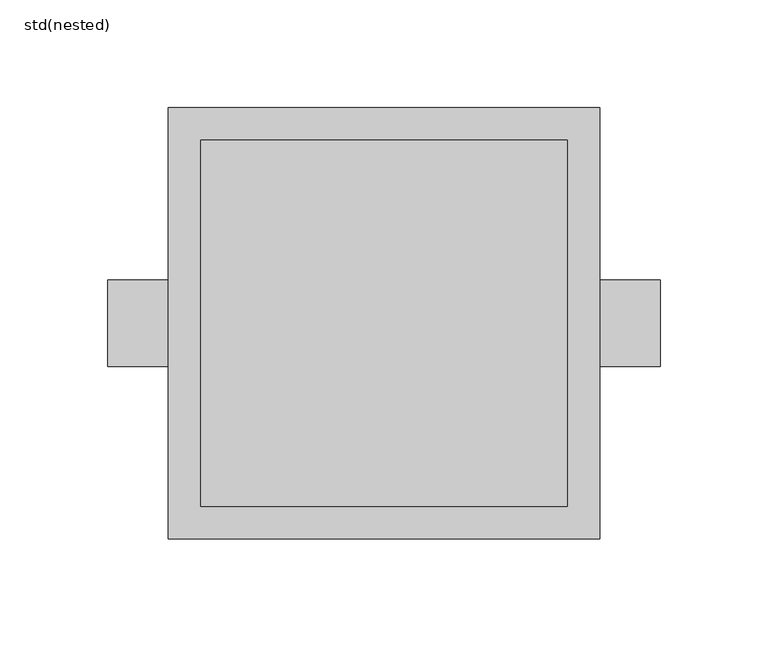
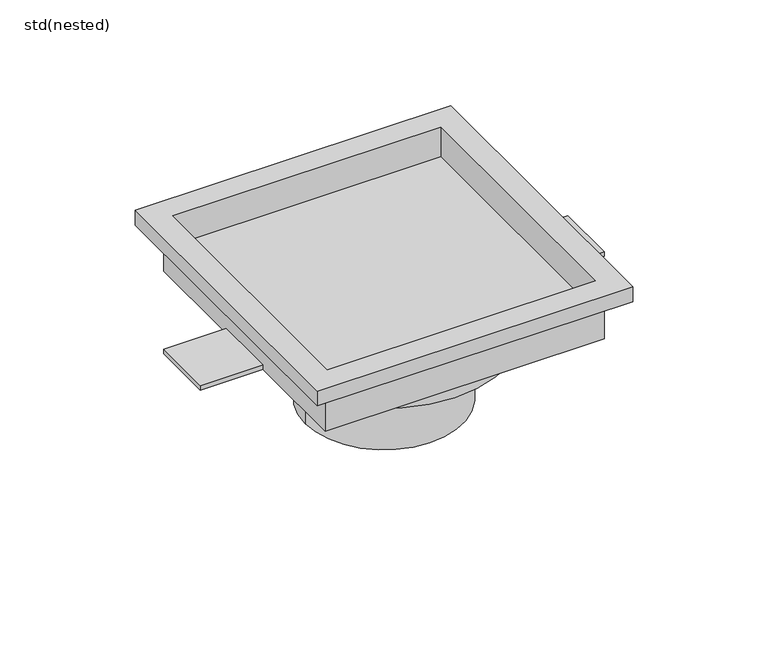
"""IFC4 building model written with IfcOpenShell, lengths in millimetres: sanitary terminal geometry, ZZZ_do not use_PF_ST_Finor stainless steel_square_ACO : std(nested)."""

from ifc_helpers import new_model, si_unit, frame, origin, place, context, project, spatial, polyline, circle_curve, outline, extrude, faceted_brep, source, transform, mapped, element, save
from ifc_brep_helpers import plane_surface, cylinder_surface, revolved_surface, advanced_brep


def std_nested_13740ca9(model_context):
    return source(origin(), model_context, "Body", "SolidModel", [
        extrude(outline(polyline([(128.0, 20.0), (128.0, -20.0), (88.0, -20.0), (88.0, 20.0), (128.0, 20.0)])), frame((0.0, 0.0, -38.0), z_axis=(0.0, 0.0, 1.0), x_axis=(1.0, 0.0, 0.0)), (0.0, 0.0, 1.0), 3.0),
        extrude(outline(polyline([(-88.0, 20.0), (-88.0, -20.0), (-128.0, -20.0), (-128.0, 20.0), (-88.0, 20.0)])), frame((0.0, 0.0, -38.0), z_axis=(0.0, 0.0, 1.0), x_axis=(1.0, 0.0, 0.0)), (0.0, 0.0, 1.0), 3.0),
        advanced_brep(
        [(50.0, 0.0, -60.0), (-50.0, 0.0, -60.0), (-77.5, 0.0, -53.0), (77.5, 0.0, -53.0), (50.0, 0.0, -100.0), (-50.0, 0.0, -100.0), (0.0, 0.0, -100.0), (77.5, 0.0, -38.0), (-77.5, 0.0, -38.0), (0.0, 0.0, -38.0)],
        [
            (0, 1, circle_curve(frame((0.0, 0.0, -60.0), z_axis=(0.0, 0.0, 1.0), x_axis=(-1.0, 0.0, 0.0)), 50.0)),
            (1, 2),
            (2, 3, circle_curve(frame((0.0, 0.0, -53.0), z_axis=(0.0, 0.0, -1.0), x_axis=(-1.0, 0.0, 0.0)), 77.5)),
            (3, 0),
            (1, 0, circle_curve(frame((0.0, 0.0, -60.0), z_axis=(0.0, 0.0, 1.0), x_axis=(-1.0, 0.0, 0.0)), 50.0)),
            (3, 2, circle_curve(frame((0.0, 0.0, -53.0), z_axis=(0.0, 0.0, -1.0), x_axis=(-1.0, 0.0, 0.0)), 77.5)),
            (4, 5, circle_curve(frame((0.0, 0.0, -100.0), z_axis=(0.0, 0.0, 1.0), x_axis=(-1.0, 0.0, 0.0)), 50.0)),
            (5, 1),
            (0, 4),
            (5, 4, circle_curve(frame((0.0, 0.0, -100.0), z_axis=(0.0, 0.0, 1.0), x_axis=(-1.0, 0.0, 0.0)), 50.0)),
            (6, 5),
            (4, 6),
            (7, 8, circle_curve(frame((0.0, 0.0, -38.0), z_axis=(0.0, 0.0, 1.0), x_axis=(-1.0, 0.0, 0.0)), 77.5)),
            (8, 9),
            (9, 7),
            (8, 7, circle_curve(frame((0.0, 0.0, -38.0), z_axis=(0.0, 0.0, 1.0), x_axis=(-1.0, 0.0, 0.0)), 77.5)),
            (2, 8),
            (7, 3),
        ],
        [
            revolved_surface(polyline([(-77.5, 0.0, -53.0), (-50.0, 0.0, -60.0)]), (0.0, 0.0, 92.0), (0.0, 0.0, -1.0)),
            cylinder_surface(frame((0.0, 0.0, 92.0), z_axis=(0.0, 0.0, -1.0), x_axis=(-1.0, 0.0, 0.0)), 50.0),
            plane_surface(frame((0.0, 0.0, -100.0), z_axis=(0.0, 0.0, -1.0), x_axis=(-1.0, 0.0, 0.0))),
            plane_surface(frame((0.0, 0.0, -38.0), z_axis=(0.0, 0.0, 1.0), x_axis=(-1.0, 0.0, 0.0))),
            cylinder_surface(frame((0.0, 0.0, 92.0), z_axis=(0.0, 0.0, -1.0), x_axis=(-1.0, 0.0, 0.0)), 77.5),
        ],
        [
            (0, [[1, 2, 3, 4]]),
            (0, [[5, -4, 6, -2]]),
            (1, [[7, 8, -1, 9]]),
            (1, [[10, -9, -5, -8]]),
            (2, [[11, -7, 12]]),
            (2, [[-12, -10, -11]]),
            (3, [[13, 14, 15]]),
            (3, [[16, -15, -14]]),
            (4, [[-3, 17, -13, 18]]),
            (4, [[-6, -18, -16, -17]]),
        ],
    ),
        faceted_brep([(88.5, 88.5, -38.0), (88.5, -88.5, -38.0), (-88.5, -88.5, -38.0), (-88.5, 88.5, -38.0), (100.0, 100.0, 0.0), (-100.0, 100.0, 0.0), (-100.0, -100.0, 0.0), (100.0, -100.0, 0.0), (-85.0, 85.0, 0.0), (85.0, 85.0, 0.0), (85.0, -85.0, 0.0), (-85.0, -85.0, 0.0), (-88.5, 88.5, -10.0), (88.5, 88.5, -10.0), (-88.5, -88.5, -10.0), (88.5, -88.5, -10.0), (100.0, 100.0, -10.0), (100.0, -100.0, -10.0), (-100.0, -100.0, -10.0), (-100.0, 100.0, -10.0), (85.0, 85.0, -20.0), (-85.0, 85.0, -20.0), (-85.0, -85.0, -20.0), (85.0, -85.0, -20.0)], [[[0, 1, 2, 3]], [[4, 5, 6, 7], [8, 9, 10, 11]], [[0, 3, 12, 13]], [[3, 2, 14, 12]], [[2, 1, 15, 14]], [[1, 0, 13, 15]], [[16, 17, 18, 19], [13, 12, 14, 15]], [[16, 19, 5, 4]], [[19, 18, 6, 5]], [[18, 17, 7, 6]], [[17, 16, 4, 7]], [[20, 21, 22, 23]], [[21, 20, 9, 8]], [[22, 21, 8, 11]], [[23, 22, 11, 10]], [[20, 23, 10, 9]]]),
    ])


if __name__ == "__main__":
    model = new_model("IFC4")
    model_context = context("Model", 3, world=origin())
    ifc_project = project(units=[si_unit("LENGTHUNIT", "METRE", prefix="MILLI")], contexts=[model_context])
    site = spatial("IfcSite", under=ifc_project)
    building = spatial("IfcBuilding", under=site)
    placement = place(None, origin())
    std_nested_shape = std_nested_13740ca9(model_context)
    element("IfcSanitaryTerminal", 1, ObjectType="ZZZ_do not use_PF_ST_Finor stainless steel_square_ACO : std(nested)", at=placement, inside=building, context=model_context, shape_type="MappedRepresentation", body=[
        mapped(std_nested_shape, transform((0.0, 0.0, 0.0), x_axis=(1.0, 0.0, 0.0), y_axis=(0.0, 1.0, 0.0), z_axis=(0.0, 0.0, 1.0))),
    ])
    save(model, "model.ifc")
